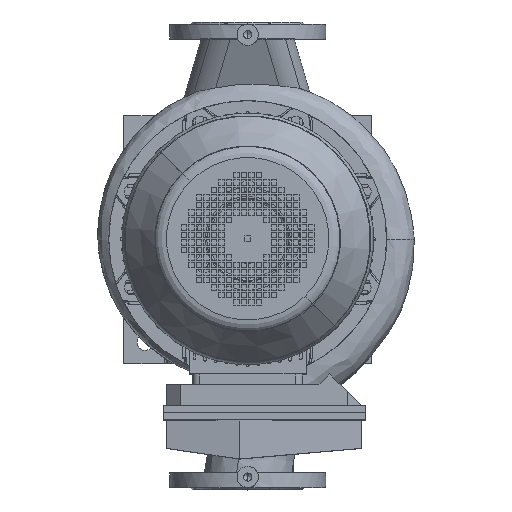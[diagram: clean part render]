
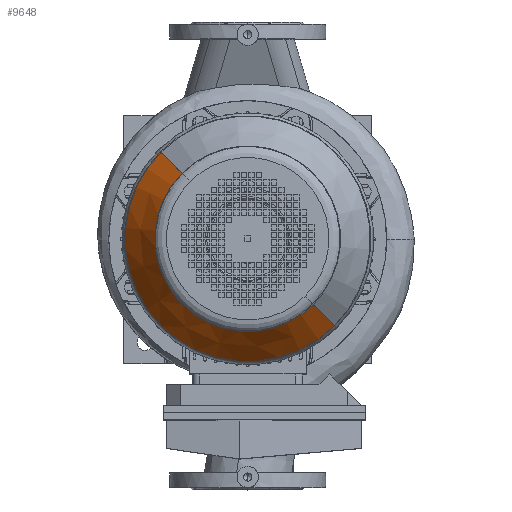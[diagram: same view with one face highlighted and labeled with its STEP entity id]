
A CAD part, top view. The second image highlights one B-rep face of the part: STEP entity #9648.
In plain terms, the highlighted conical face has half-angle 34.992 degrees and reference radius 125 mm.
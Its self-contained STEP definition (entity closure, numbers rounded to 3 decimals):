
#9648=ADVANCED_FACE('',(#23085),#23086,.T.);
#9672=EDGE_CURVE('',#23122,#23121,#23129,.T.);
#9676=EDGE_CURVE('',#23118,#23117,#23135,.T.);
#23085=FACE_OUTER_BOUND('',#39652,.T.);
#23086=CONICAL_SURFACE('',#39653,125.0,0.611);
#23117=VERTEX_POINT('',#39689);
#23118=VERTEX_POINT('',#39690);
#23121=VERTEX_POINT('',#39694);
#23122=VERTEX_POINT('',#39695);
#23129=CIRCLE('',#39704,130.972);
#23135=CIRCLE('',#39712,173.885);
#39652=EDGE_LOOP('',(#75299,#75300,#75301,#75302));
#39653=AXIS2_PLACEMENT_3D('',#75303,#75304,#75305);
#39689=CARTESIAN_POINT('',(173.885,0.,130.165));
#39690=CARTESIAN_POINT('',(-173.885,0.,130.165));
#39694=CARTESIAN_POINT('',(-130.972,0.,191.469));
#39695=CARTESIAN_POINT('',(130.972,0.0,191.469));
#39704=AXIS2_PLACEMENT_3D('',#75359,#75360,#75361);
#39712=AXIS2_PLACEMENT_3D('',#75365,#75366,#75367);
#75299=ORIENTED_EDGE('',*,*,#87005,.T.);
#75300=ORIENTED_EDGE('',*,*,#9672,.F.);
#75301=ORIENTED_EDGE('',*,*,#87006,.T.);
#75302=ORIENTED_EDGE('',*,*,#9676,.F.);
#75303=CARTESIAN_POINT('',(0.0,0.0,200.0));
#75304=DIRECTION('',(-0.0,-0.0,-1.0));
#75305=DIRECTION('',(-1.0,0.0,0.0));
#75359=CARTESIAN_POINT('',(0.0,0.0,191.469));
#75360=DIRECTION('',(0.0,0.0,1.0));
#75361=DIRECTION('',(1.0,0.0,0.0));
#75365=CARTESIAN_POINT('',(0.0,0.0,130.165));
#75366=DIRECTION('',(0.0,0.0,-1.0));
#75367=DIRECTION('',(1.0,0.,0.0));
#87005=EDGE_CURVE('',#23118,#23121,#93966,.T.);
#87006=EDGE_CURVE('',#23122,#23117,#93967,.T.);
#93966=LINE('',#102735,#102736);
#93967=LINE('',#102737,#102738);
#102735=CARTESIAN_POINT('',(-125.0,0.,200.0));
#102736=VECTOR('',#113825,1.0);
#102737=CARTESIAN_POINT('',(125.0,0.,200.0));
#102738=VECTOR('',#113826,1.0);
#113825=DIRECTION('',(0.573,0.,0.819));
#113826=DIRECTION('',(0.573,0.,-0.819));
